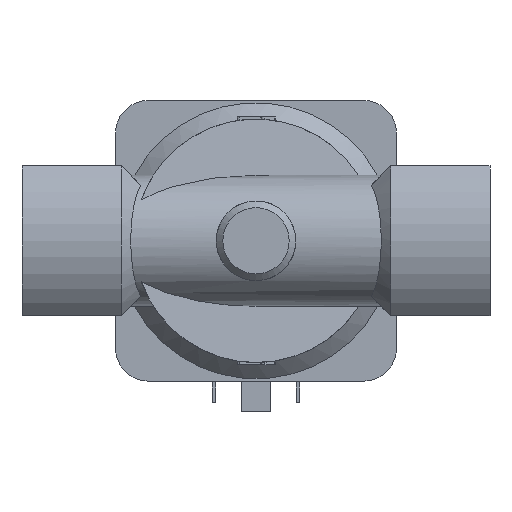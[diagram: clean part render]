
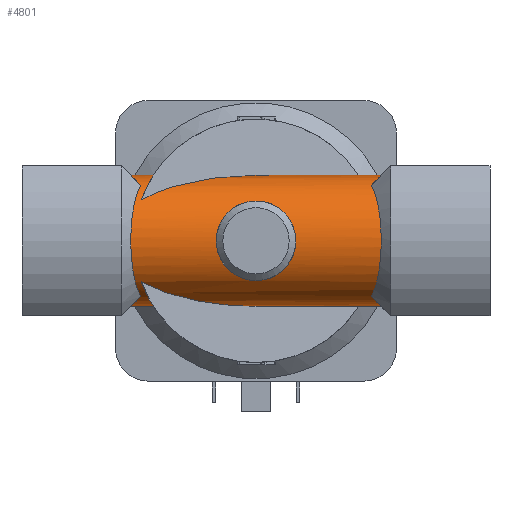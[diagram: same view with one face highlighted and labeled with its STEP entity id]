
A CAD part, front view. The second image highlights one B-rep face of the part: STEP entity #4801.
In plain terms, the highlighted cylindrical face has radius 14 mm (diameter 28 mm), a partial arc.
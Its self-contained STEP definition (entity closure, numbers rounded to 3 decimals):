
#452=LINE('',#7799,#868);
#453=LINE('',#7811,#869);
#454=LINE('',#7827,#870);
#455=LINE('',#7838,#871);
#868=VECTOR('',#6320,1000.);
#869=VECTOR('',#6323,1000.);
#870=VECTOR('',#6328,1000.);
#871=VECTOR('',#6331,1000.);
#1284=B_SPLINE_CURVE_WITH_KNOTS('',3,(#7787,#7788,#7789,#7790,#7791,#7792,
#7793,#7794,#7795),.UNSPECIFIED.,.F.,.F.,(4,1,1,1,1,1,4),(0.,
0.004,0.008,0.015,0.022,
0.026,0.029),.UNSPECIFIED.);
#1285=B_SPLINE_CURVE_WITH_KNOTS('',3,(#7801,#7802,#7803,#7804,#7805,#7806,
#7807),.UNSPECIFIED.,.F.,.F.,(4,1,1,1,4),(0.,0.003,
0.006,0.01,0.013),
 .UNSPECIFIED.);
#1286=B_SPLINE_CURVE_WITH_KNOTS('',3,(#7815,#7816,#7817,#7818,#7819,#7820,
#7821,#7822,#7823),.UNSPECIFIED.,.F.,.F.,(4,1,1,1,1,1,4),(0.,
0.004,0.008,0.015,0.022,
0.026,0.029),.UNSPECIFIED.);
#1287=B_SPLINE_CURVE_WITH_KNOTS('',3,(#7831,#7832,#7833,#7834,#7835,#7836),
 .UNSPECIFIED.,.F.,.F.,(4,1,1,4),(0.001,0.008,
0.011,0.014),.UNSPECIFIED.);
#1288=B_SPLINE_CURVE_WITH_KNOTS('',3,(#7839,#7840,#7841,#7842,#7843,#7844,
#7845,#7846,#7847,#7848,#7849,#7850,#7851,#7852,#7853,#7854,#7855,#7856,
#7857,#7858),.UNSPECIFIED.,.T.,.F.,(1,1,1,1,1,1,1,1,1,1,1,1,1,1,1,1,1,1,
1,1,1,1,1,1),(-0.007,-0.003,-0.002,
0.,0.003,0.007,0.01,0.014,
0.017,0.02,0.024,0.027,
0.031,0.034,0.037,0.041,
0.044,0.048,0.051,0.053,
0.054,0.058,0.061,0.065),
 .UNSPECIFIED.);
#1347=ORIENTED_EDGE('',*,*,#2749,.F.);
#1348=ORIENTED_EDGE('',*,*,#2750,.F.);
#1349=ORIENTED_EDGE('',*,*,#2751,.F.);
#1350=ORIENTED_EDGE('',*,*,#2752,.F.);
#1351=ORIENTED_EDGE('',*,*,#2753,.T.);
#1352=ORIENTED_EDGE('',*,*,#2754,.F.);
#1353=ORIENTED_EDGE('',*,*,#2755,.F.);
#1354=ORIENTED_EDGE('',*,*,#2756,.T.);
#1355=ORIENTED_EDGE('',*,*,#2757,.T.);
#1356=ORIENTED_EDGE('',*,*,#2758,.T.);
#1357=ORIENTED_EDGE('',*,*,#2759,.F.);
#1358=ORIENTED_EDGE('',*,*,#2760,.F.);
#1359=ORIENTED_EDGE('',*,*,#2761,.T.);
#1360=ORIENTED_EDGE('',*,*,#2762,.F.);
#1361=ORIENTED_EDGE('',*,*,#2763,.F.);
#2749=EDGE_CURVE('',#3450,#3451,#3933,.F.);
#2750=EDGE_CURVE('',#3452,#3450,#1284,.T.);
#2751=EDGE_CURVE('',#3453,#3452,#3934,.F.);
#2752=EDGE_CURVE('',#3454,#3453,#452,.T.);
#2753=EDGE_CURVE('',#3454,#3455,#1285,.T.);
#2754=EDGE_CURVE('',#3456,#3455,#3935,.F.);
#2755=EDGE_CURVE('',#3457,#3456,#453,.T.);
#2756=EDGE_CURVE('',#3457,#3458,#3936,.T.);
#2757=EDGE_CURVE('',#3458,#3459,#1286,.T.);
#2758=EDGE_CURVE('',#3459,#3460,#3937,.T.);
#2759=EDGE_CURVE('',#3461,#3460,#454,.T.);
#2760=EDGE_CURVE('',#3462,#3461,#3938,.F.);
#2761=EDGE_CURVE('',#3462,#3463,#1287,.T.);
#2762=EDGE_CURVE('',#3451,#3463,#455,.T.);
#2763=EDGE_CURVE('',#3464,#3464,#1288,.T.);
#3450=VERTEX_POINT('',#7785);
#3451=VERTEX_POINT('',#7786);
#3452=VERTEX_POINT('',#7796);
#3453=VERTEX_POINT('',#7798);
#3454=VERTEX_POINT('',#7800);
#3455=VERTEX_POINT('',#7808);
#3456=VERTEX_POINT('',#7810);
#3457=VERTEX_POINT('',#7812);
#3458=VERTEX_POINT('',#7814);
#3459=VERTEX_POINT('',#7824);
#3460=VERTEX_POINT('',#7826);
#3461=VERTEX_POINT('',#7828);
#3462=VERTEX_POINT('',#7830);
#3463=VERTEX_POINT('',#7837);
#3464=VERTEX_POINT('',#7859);
#3933=ELLIPSE('',#5787,19.799,14.);
#3934=ELLIPSE('',#5788,19.799,14.);
#3935=ELLIPSE('',#5789,34.42,14.);
#3936=ELLIPSE('',#5790,19.799,14.);
#3937=ELLIPSE('',#5791,19.799,14.);
#3938=ELLIPSE('',#5792,34.42,14.);
#3957=EDGE_LOOP('',(#1347,#1348,#1349,#1350,#1351,#1352,#1353,#1354,#1355,
#1356,#1357,#1358,#1359,#1360));
#3958=EDGE_LOOP('',(#1361));
#4337=FACE_BOUND('',#3957,.T.);
#4338=FACE_BOUND('',#3958,.T.);
#4717=CYLINDRICAL_SURFACE('',#5786,14.);
#4801=ADVANCED_FACE('',(#4337,#4338),#4717,.T.);
#5786=AXIS2_PLACEMENT_3D('',#7783,#6314,#6315);
#5787=AXIS2_PLACEMENT_3D('',#7784,#6316,#6317);
#5788=AXIS2_PLACEMENT_3D('',#7797,#6318,#6319);
#5789=AXIS2_PLACEMENT_3D('',#7809,#6321,#6322);
#5790=AXIS2_PLACEMENT_3D('',#7813,#6324,#6325);
#5791=AXIS2_PLACEMENT_3D('',#7825,#6326,#6327);
#5792=AXIS2_PLACEMENT_3D('',#7829,#6329,#6330);
#6314=DIRECTION('',(-1.,0.,0.));
#6315=DIRECTION('',(0.,0.,1.));
#6316=DIRECTION('',(0.707,0.,0.707));
#6317=DIRECTION('',(-0.707,0.,0.707));
#6318=DIRECTION('',(0.707,0.,-0.707));
#6319=DIRECTION('',(-0.707,0.,-0.707));
#6320=DIRECTION('',(-1.,0.,0.));
#6321=DIRECTION('',(0.407,-0.914,0.));
#6322=DIRECTION('',(-0.914,-0.407,0.));
#6323=DIRECTION('',(-1.,0.,0.));
#6324=DIRECTION('',(-0.707,0.,-0.707));
#6325=DIRECTION('',(-0.707,0.,0.707));
#6326=DIRECTION('',(-0.707,0.,0.707));
#6327=DIRECTION('',(-0.707,0.,-0.707));
#6328=DIRECTION('',(1.,0.,0.));
#6329=DIRECTION('',(0.407,-0.914,0.));
#6330=DIRECTION('',(-0.914,-0.407,0.));
#6331=DIRECTION('',(1.,0.,0.));
#7783=CARTESIAN_POINT('',(30.,0.,0.));
#7784=CARTESIAN_POINT('',(-12.75,0.,0.));
#7785=CARTESIAN_POINT('',(-24.652,-7.372,11.902));
#7786=CARTESIAN_POINT('',(-26.75,0.,14.));
#7787=CARTESIAN_POINT('',(-24.652,-7.372,-11.902));
#7788=CARTESIAN_POINT('',(-24.982,-8.359,-11.291));
#7789=CARTESIAN_POINT('',(-25.57,-10.165,-9.838));
#7790=CARTESIAN_POINT('',(-26.466,-13.041,-6.012));
#7791=CARTESIAN_POINT('',(-26.938,-14.636,-0.018));
#7792=CARTESIAN_POINT('',(-26.47,-13.052,5.986));
#7793=CARTESIAN_POINT('',(-25.577,-10.187,9.817));
#7794=CARTESIAN_POINT('',(-24.984,-8.364,11.288));
#7795=CARTESIAN_POINT('',(-24.652,-7.372,11.902));
#7796=CARTESIAN_POINT('',(-24.652,-7.372,-11.902));
#7797=CARTESIAN_POINT('',(-12.75,0.,0.));
#7798=CARTESIAN_POINT('',(-26.75,0.,-14.));
#7799=CARTESIAN_POINT('',(30.,0.,-14.));
#7800=CARTESIAN_POINT('',(-21.909,0.,-14.));
#7801=CARTESIAN_POINT('',(-21.909,0.,-14.));
#7802=CARTESIAN_POINT('',(-21.909,-1.077,-14.));
#7803=CARTESIAN_POINT('',(-22.068,-3.182,-13.756));
#7804=CARTESIAN_POINT('',(-22.708,-6.173,-12.696));
#7805=CARTESIAN_POINT('',(-23.575,-8.799,-11.032));
#7806=CARTESIAN_POINT('',(-24.18,-10.247,-9.595));
#7807=CARTESIAN_POINT('',(-24.468,-10.894,-8.793));
#7808=CARTESIAN_POINT('',(-24.468,-10.894,-8.793));
#7809=CARTESIAN_POINT('',(0.,0.,0.));
#7810=CARTESIAN_POINT('',(0.,0.,-14.));
#7811=CARTESIAN_POINT('',(30.,0.,-14.));
#7812=CARTESIAN_POINT('',(26.75,0.,-14.));
#7813=CARTESIAN_POINT('',(12.75,0.,0.));
#7814=CARTESIAN_POINT('',(24.652,-7.372,-11.902));
#7815=CARTESIAN_POINT('',(24.652,-7.372,-11.902));
#7816=CARTESIAN_POINT('',(24.982,-8.359,-11.291));
#7817=CARTESIAN_POINT('',(25.57,-10.165,-9.838));
#7818=CARTESIAN_POINT('',(26.466,-13.041,-6.012));
#7819=CARTESIAN_POINT('',(26.938,-14.636,-0.018));
#7820=CARTESIAN_POINT('',(26.47,-13.052,5.986));
#7821=CARTESIAN_POINT('',(25.577,-10.187,9.817));
#7822=CARTESIAN_POINT('',(24.984,-8.364,11.288));
#7823=CARTESIAN_POINT('',(24.652,-7.372,11.902));
#7824=CARTESIAN_POINT('',(24.652,-7.372,11.902));
#7825=CARTESIAN_POINT('',(12.75,0.,0.));
#7826=CARTESIAN_POINT('',(26.75,0.,14.));
#7827=CARTESIAN_POINT('',(-30.,0.,14.));
#7828=CARTESIAN_POINT('',(0.,0.,14.));
#7829=CARTESIAN_POINT('',(0.,0.,0.));
#7830=CARTESIAN_POINT('',(-24.468,-10.894,8.793));
#7831=CARTESIAN_POINT('',(-24.468,-10.894,8.793));
#7832=CARTESIAN_POINT('',(-23.895,-9.607,10.387));
#7833=CARTESIAN_POINT('',(-22.925,-7.177,12.336));
#7834=CARTESIAN_POINT('',(-22.069,-3.192,13.754));
#7835=CARTESIAN_POINT('',(-21.909,-1.079,14.));
#7836=CARTESIAN_POINT('',(-21.909,0.,14.));
#7837=CARTESIAN_POINT('',(-21.909,0.,14.));
#7838=CARTESIAN_POINT('',(-30.,0.,14.));
#7839=CARTESIAN_POINT('',(-1.727,-11.216,-8.382));
#7840=CARTESIAN_POINT('',(0.581,-11.031,-8.619));
#7841=CARTESIAN_POINT('',(3.406,-11.506,-8.024));
#7842=CARTESIAN_POINT('',(6.135,-12.653,-6.175));
#7843=CARTESIAN_POINT('',(8.012,-13.697,-3.443));
#7844=CARTESIAN_POINT('',(8.738,-14.148,-0.039));
#7845=CARTESIAN_POINT('',(8.036,-13.711,3.399));
#7846=CARTESIAN_POINT('',(6.155,-12.664,6.153));
#7847=CARTESIAN_POINT('',(3.451,-11.52,8.006));
#7848=CARTESIAN_POINT('',(0.035,-10.932,8.74));
#7849=CARTESIAN_POINT('',(-3.389,-11.499,8.035));
#7850=CARTESIAN_POINT('',(-6.124,-12.648,6.186));
#7851=CARTESIAN_POINT('',(-8.011,-13.696,3.45));
#7852=CARTESIAN_POINT('',(-8.739,-14.149,0.033));
#7853=CARTESIAN_POINT('',(-8.034,-13.71,-3.403));
#7854=CARTESIAN_POINT('',(-6.15,-12.659,-6.162));
#7855=CARTESIAN_POINT('',(-3.881,-11.708,-7.704));
#7856=CARTESIAN_POINT('',(-1.727,-11.216,-8.382));
#7857=CARTESIAN_POINT('',(0.581,-11.031,-8.619));
#7858=CARTESIAN_POINT('',(3.406,-11.506,-8.024));
#7859=CARTESIAN_POINT('',(0.,-11.124,-8.5));
